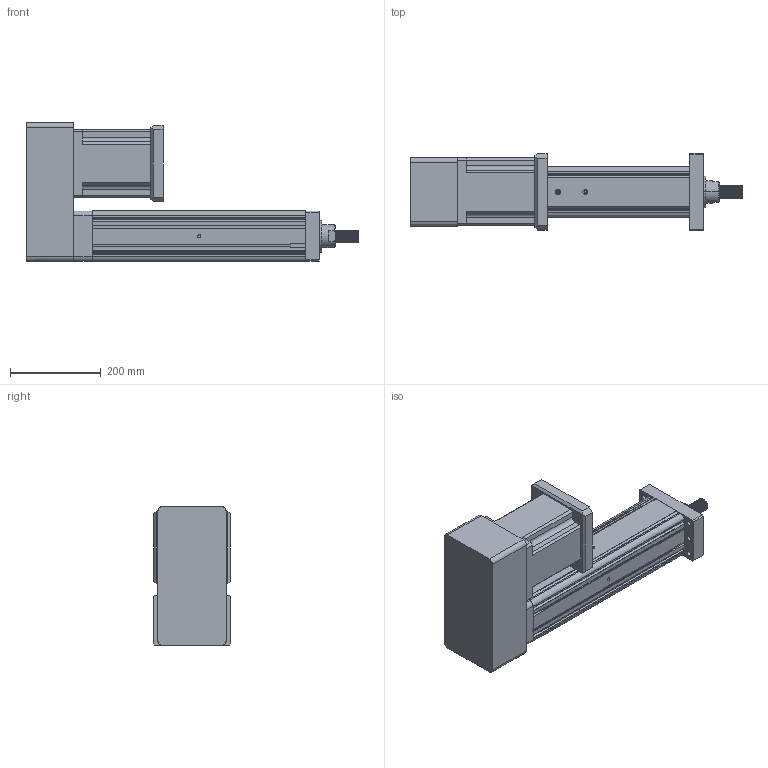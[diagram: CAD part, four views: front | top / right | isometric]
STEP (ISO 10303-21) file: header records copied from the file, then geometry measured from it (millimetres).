
FILE_DESCRIPTION (( 'STEP AP203' ), '1' );
FILE_NAME ('YRJ110-L300-H3K1.STEP', '2020-01-04T06:30:44', ( 'User' ), ( 'China' ), 'SwSTEP 2.0', 'SolidWorks 2016', '' );
FILE_SCHEMA (( 'CONFIG_CONTROL_DESIGN' ));
Length unit declared in the file: millimetre
Products named in the file (7): YRJ110-L300-H3K1; 095-100俴最倰第; 萇儂碟-110; 142熬厒儂; H3-110-1; H3-110-2; K1-110
Assembly tree (6 placements, depth 2):
  YRJ110-L300-H3K1
    095-100俴最倰第
    萇儂碟-110
    142熬厒儂
    H3-110-1
    H3-110-2
    K1-110
Bounding box: 731 x 170 x 305.5 mm (x, y, z)
Volume: 11917175.4 mm3; surface area: 917064.6 mm2
Topology: 6 solids, 6 shells, 359 faces, 1001 edges, 648 vertices
Faces by surface type: plane 168, cylinder 160, cone 27, bspline 4
Entity records: 20190 total; most frequent: CARTESIAN_POINT 10350, ORIENTED_EDGE 1970, DIRECTION 1827, EDGE_CURVE 985, VERTEX_POINT 648, VECTOR 617, LINE 617, AXIS2_PLACEMENT_3D 605
